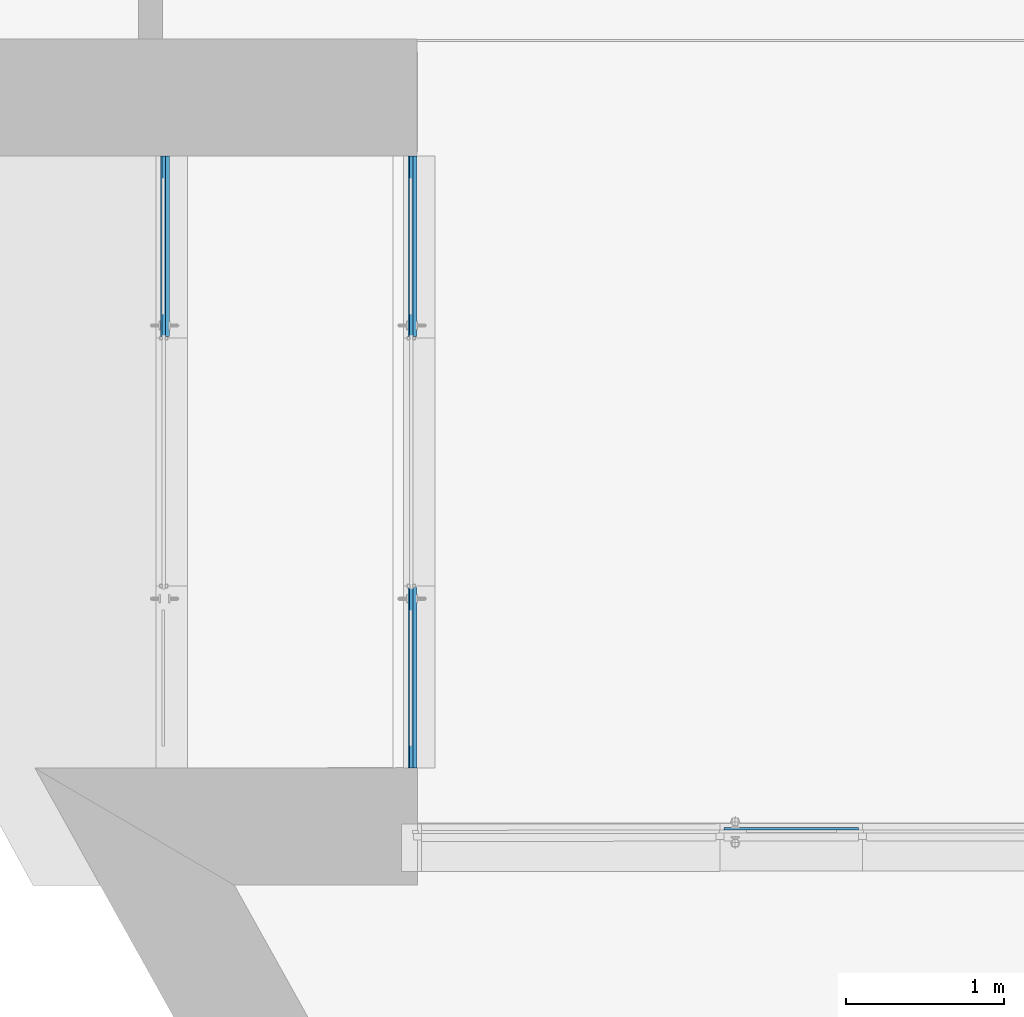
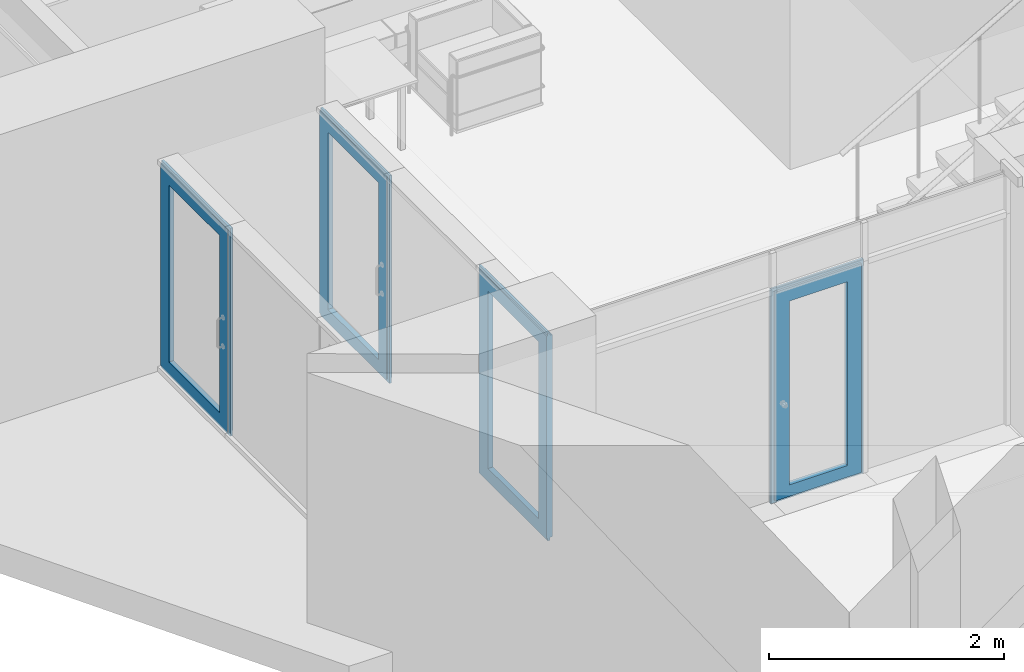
# One storey, part 62 of 127: 4 building element parts, 7 elements without a shape of their own.
"""IFC2X3 building model written with IfcOpenShell, lengths in millimetres."""

from ifc_helpers import new_model, entity, si_unit, converted_unit, derived_unit, money_unit, direction, frame, origin_with_axes, place, context, subcontext, project, spatial, faceted_brep, material, type_object, element, aggregate, save


model = new_model("IFC2X3")

# Units and contexts
model_context = context("Model", 3, precision=1e-05, world=origin_with_axes(), true_north=direction((0.0, 1.0)))
body_context = subcontext(model_context, "Body", "Model", "MODEL_VIEW")
ifc_project = project(units=[si_unit("LENGTHUNIT", "METRE", prefix="MILLI"), si_unit("AREAUNIT", "SQUARE_METRE"), si_unit("VOLUMEUNIT", "CUBIC_METRE"), converted_unit("PLANEANGLEUNIT", "DEGREE", entity("IfcPlaneAngleMeasure", 0.0174532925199), si_unit("PLANEANGLEUNIT", "RADIAN"), dimensions=[0, 0, 0, 0, 0, 0, 0]), si_unit("SOLIDANGLEUNIT", "STERADIAN"), money_unit("EUR"), converted_unit("TIMEUNIT", "Year", entity("IfcTimeMeasure", 31556926.0), si_unit("TIMEUNIT", "SECOND"), dimensions=[0, 0, 1, 0, 0, 0, 0]), si_unit("MASSUNIT", "GRAM", prefix="KILO"), si_unit("THERMODYNAMICTEMPERATUREUNIT", "DEGREE_CELSIUS"), si_unit("LUMINOUSINTENSITYUNIT", "LUMEN"), si_unit("ENERGYUNIT", "JOULE", prefix="MEGA"), derived_unit("THERMALCONDUCTANCEUNIT", [(si_unit("POWERUNIT", "WATT"), 1), (si_unit("LENGTHUNIT", "METRE"), -1), (si_unit("THERMODYNAMICTEMPERATUREUNIT", "KELVIN"), -1)]), derived_unit("SPECIFICHEATCAPACITYUNIT", [(si_unit("ENERGYUNIT", "JOULE"), 1), (si_unit("MASSUNIT", "GRAM", prefix="KILO"), -1), (si_unit("THERMODYNAMICTEMPERATUREUNIT", "KELVIN"), -1)]), derived_unit("MASSDENSITYUNIT", [(si_unit("MASSUNIT", "GRAM", prefix="KILO"), 1), (si_unit("VOLUMEUNIT", "CUBIC_METRE"), -1)])], contexts=[model_context])

# Site, building, storey
site_placement = place(None, origin_with_axes())
site = spatial("IfcSite", under=ifc_project, at=site_placement, Name="Site", CompositionType="ELEMENT")
building_placement = place(site_placement, origin_with_axes())
building = spatial("IfcBuilding", under=site, at=building_placement, Name="Building", CompositionType="ELEMENT")
storey_placement = place(building_placement, origin_with_axes())
storey = spatial("IfcBuildingStorey", under=building, at=storey_placement, Name="1 KORRUS", CompositionType="ELEMENT", Elevation=0.0)

# Curtain wall, door, building element part
curtain_wall_type_1 = type_object("IfcCurtainWallType", Name="VU-2", PredefinedType="NOTDEFINED")
curtain_wall_1_placement = place(storey_placement, frame((18897.7258144, 42128.0459009, 25.0), z_axis=(0.0, 0.0, 1.0), x_axis=(1.0, 0.0, 0.0)))
curtain_wall_1 = element("IfcCurtainWall", 1, at=curtain_wall_1_placement, inside=storey, type_object=curtain_wall_type_1, Name="Välisuks")
door_style_1 = type_object("IfcDoorStyle", Name="1150 x 5 x 20", ConstructionType="NOTDEFINED", OperationType="NOTDEFINED", ParameterTakesPrecedence=False, Sizeable=False)
door_1_placement = place(curtain_wall_1_placement, frame((0.0, 0.0, 1075.0), z_axis=(0.0, 0.0, 1.0), x_axis=(0.0, 1.0, 0.0)))
door_1 = element("IfcDoor", 2, at=door_1_placement, type_object=door_style_1, Name="Välisuks * CW Door 22")
aggregate(curtain_wall_1, [door_1])
ifc_material = material(Name="Alumiinium (1)")
building_element_part_1_placement = place(door_1_placement, origin_with_axes())
building_element_part_1 = element("IfcBuildingElementPart", 3, at=building_element_part_1_placement, material=ifc_material, Name="Alumiinium (1)", context=body_context, shape_type="Brep", body=[
    faceted_brep([(-565.000009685, -35.0, -1049.99999627), (-565.000009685, -35.0, 1049.99999627), (-565.000009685, -30.0, 1049.99999627), (-565.000009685, -30.0, -1049.99999627), (-520.000009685, -35.0, -1049.99999627), (-520.000009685, -35.0, 1004.99999627), (-520.000009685, -30.0, 1004.99999627), (-520.000009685, -30.0, -1049.99999627)], [[[0, 1, 2, 3]], [[0, 4, 5, 1]], [[1, 5, 6, 2]], [[3, 2, 6, 7]], [[4, 0, 3, 7]], [[5, 4, 7, 6]]]),
    faceted_brep([(575.000000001, -35.0, 1049.99999627), (530.000000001, -35.0, 1004.99999627), (530.000000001, -30.0, 1004.99999627), (575.000000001, -30.0, 1049.99999627), (-565.000009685, -35.0, 1049.99999627), (-520.000009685, -35.0, 1004.99999627), (-520.000009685, -30.0, 1004.99999627), (-565.000009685, -30.0, 1049.99999627)], [[[0, 1, 2, 3]], [[0, 4, 5, 1]], [[1, 5, 6, 2]], [[3, 2, 6, 7]], [[4, 0, 3, 7]], [[5, 4, 7, 6]]]),
    faceted_brep([(575.000000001, -35.0, -1049.99999627), (530.000000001, -35.0, -1049.99999627), (530.000000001, -30.0, -1049.99999627), (575.000000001, -30.0, -1049.99999627), (575.000000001, -35.0, 1049.99999627), (530.000000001, -35.0, 1004.99999627), (530.000000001, -30.0, 1004.99999627), (575.000000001, -30.0, 1049.99999627)], [[[0, 1, 2, 3]], [[0, 4, 5, 1]], [[1, 5, 6, 2]], [[3, 2, 6, 7]], [[4, 0, 3, 7]], [[5, 4, 7, 6]]]),
    faceted_brep([(-565.000009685, -30.0, -1049.99999627), (-565.000009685, -30.0, 1049.99999627), (-565.000009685, 20.0, 1049.99999627), (-565.000009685, 20.0, -1049.99999627), (-545.000009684, -30.0, -1049.99999627), (-545.000009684, -30.0, 1029.99999627), (-545.000009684, 20.0, 1029.99999627), (-545.000009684, 20.0, -1049.99999627)], [[[0, 1, 2, 3]], [[0, 4, 5, 1]], [[1, 5, 6, 2]], [[3, 2, 6, 7]], [[4, 0, 3, 7]], [[5, 4, 7, 6]]]),
    faceted_brep([(575.000000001, -30.0, 1049.99999627), (555.0, -30.0, 1029.99999627), (555.0, 20.0, 1029.99999627), (575.000000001, 20.0, 1049.99999627), (-565.000009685, -30.0, 1049.99999627), (-545.000009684, -30.0, 1029.99999627), (-545.000009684, 20.0, 1029.99999627), (-565.000009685, 20.0, 1049.99999627)], [[[0, 1, 2, 3]], [[0, 4, 5, 1]], [[1, 5, 6, 2]], [[3, 2, 6, 7]], [[4, 0, 3, 7]], [[5, 4, 7, 6]]]),
    faceted_brep([(575.000000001, -30.0, -1049.99999627), (555.0, -30.0, -1049.99999627), (555.0, 20.0, -1049.99999627), (575.000000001, 20.0, -1049.99999627), (575.000000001, -30.0, 1049.99999627), (555.0, -30.0, 1029.99999627), (555.0, 20.0, 1029.99999627), (575.000000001, 20.0, 1049.99999627)], [[[0, 1, 2, 3]], [[0, 4, 5, 1]], [[1, 5, 6, 2]], [[3, 2, 6, 7]], [[4, 0, 3, 7]], [[5, 4, 7, 6]]]),
    faceted_brep([(575.000000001, -9.99999999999, -1080.0), (-594.999999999, -9.99999999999, -1080.0), (-594.999999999, 9.99999999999, -1080.0), (575.000000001, 9.99999999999, -1080.0), (575.000000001, -9.99999999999, -1049.99999627), (-565.000009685, -9.99999999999, -1049.99999627), (-565.000009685, 9.99999999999, -1049.99999627), (575.000000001, 9.99999999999, -1049.99999627)], [[[0, 1, 2, 3]], [[0, 4, 5, 1]], [[1, 5, 6, 2]], [[3, 2, 6, 7]], [[4, 0, 3, 7]], [[5, 4, 7, 6]]]),
    faceted_brep([(-594.999999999, -9.99999999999, -1080.0), (-594.999999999, -9.99999999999, 1080.0), (-594.999999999, 9.99999999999, 1080.0), (-594.999999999, 9.99999999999, -1080.0), (-565.000009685, -9.99999999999, -1049.99999627), (-565.000009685, -9.99999999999, 1049.99999627), (-565.000009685, 9.99999999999, 1049.99999627), (-565.000009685, 9.99999999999, -1049.99999627)], [[[0, 1, 2, 3]], [[0, 4, 5, 1]], [[1, 5, 6, 2]], [[3, 2, 6, 7]], [[4, 0, 3, 7]], [[5, 4, 7, 6]]]),
    faceted_brep([(-594.999999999, -9.99999999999, 1080.0), (575.000000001, -9.99999999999, 1080.0), (575.000000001, 9.99999999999, 1080.0), (-594.999999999, 9.99999999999, 1080.0), (-565.000009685, -9.99999999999, 1049.99999627), (575.000000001, -9.99999999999, 1049.99999627), (575.000000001, 9.99999999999, 1049.99999627), (-565.000009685, 9.99999999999, 1049.99999627)], [[[0, 1, 2, 3]], [[0, 4, 5, 1]], [[1, 5, 6, 2]], [[3, 2, 6, 7]], [[4, 0, 3, 7]], [[5, 4, 7, 6]]]),
    faceted_brep([(435.0, -30.0, -929.999996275), (435.0, -30.0, 909.999996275), (435.0, 20.0, 909.999996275), (435.0, 20.0, -929.999996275), (555.0, -30.0, -1049.99999627), (555.0, -30.0, 1029.99999627), (555.0, 20.0, 1029.99999627), (555.0, 20.0, -1049.99999627)], [[[0, 1, 2, 3]], [[0, 4, 5, 1]], [[1, 5, 6, 2]], [[3, 2, 6, 7]], [[4, 0, 3, 7]], [[5, 4, 7, 6]]]),
    faceted_brep([(-545.000009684, -30.0, -1049.99999627), (-545.000009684, -30.0, 1029.99999627), (-545.000009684, 20.0, 1029.99999627), (-545.000009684, 20.0, -1049.99999627), (-425.000009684, -30.0, -929.999996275), (-425.000009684, -30.0, 909.999996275), (-425.000009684, 20.0, 909.999996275), (-425.000009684, 20.0, -929.999996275)], [[[0, 1, 2, 3]], [[0, 4, 5, 1]], [[1, 5, 6, 2]], [[3, 2, 6, 7]], [[4, 0, 3, 7]], [[5, 4, 7, 6]]]),
    faceted_brep([(-545.000009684, -30.0, -1049.99999627), (-425.000009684, -30.0, -929.999996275), (-425.000009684, 20.0, -929.999996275), (-545.000009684, 20.0, -1049.99999627), (555.0, -30.0, -1049.99999627), (435.0, -30.0, -929.999996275), (435.0, 20.0, -929.999996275), (555.0, 20.0, -1049.99999627)], [[[0, 1, 2, 3]], [[0, 4, 5, 1]], [[1, 5, 6, 2]], [[3, 2, 6, 7]], [[4, 0, 3, 7]], [[5, 4, 7, 6]]]),
    faceted_brep([(555.0, -30.0, 1029.99999627), (435.0, -30.0, 909.999996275), (435.0, 20.0, 909.999996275), (555.0, 20.0, 1029.99999627), (-545.000009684, -30.0, 1029.99999627), (-425.000009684, -30.0, 909.999996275), (-425.000009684, 20.0, 909.999996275), (-545.000009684, 20.0, 1029.99999627)], [[[0, 1, 2, 3]], [[0, 4, 5, 1]], [[1, 5, 6, 2]], [[3, 2, 6, 7]], [[4, 0, 3, 7]], [[5, 4, 7, 6]]]),
])
aggregate(door_1, [building_element_part_1])

curtain_wall_type_2 = type_object("IfcCurtainWallType", Name="SKS-2", PredefinedType="NOTDEFINED")
curtain_wall_2_placement = place(storey_placement, frame((24016.5741865, 38437.6405543, -0.000166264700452), z_axis=(0.0, 0.0, 1.0), x_axis=(1.0, 0.0, 0.0)))
curtain_wall_2 = element("IfcCurtainWall", 4, at=curtain_wall_2_placement, inside=storey, type_object=curtain_wall_type_2, Name="Klaassein")
door_style_2 = type_object("IfcDoorStyle", Name="Distinct Panel 5 x 5 x 20", ConstructionType="NOTDEFINED", OperationType="NOTDEFINED", ParameterTakesPrecedence=False, Sizeable=False)
door_2_placement = place(curtain_wall_2_placement, frame((-1154.99963122, -0.922976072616, 1100.0), z_axis=(0.0, 0.0, 1.0), x_axis=(0.999999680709, 0.000799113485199, 0.0)))
door_2 = element("IfcDoor", 5, at=door_2_placement, type_object=door_style_2, Name="Siseklaasseina uks * CW Door 22")
aggregate(curtain_wall_2, [door_2])
building_element_part_2_placement = place(door_2_placement, origin_with_axes())
building_element_part_2 = element("IfcBuildingElementPart", 6, at=building_element_part_2_placement, material=ifc_material, Name="Alumiinium (1)", context=body_context, shape_type="Brep", body=[
    faceted_brep([(-425.0, 20.0000000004, -1100.0), (-425.0, 20.0000000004, 1070.0), (-425.0, 25.0000000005, 1070.0), (-425.0, 25.0000000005, -1100.0), (-380.0, 20.0000000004, -1100.0), (-380.0, 20.0000000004, 1025.0), (-380.0, 25.0000000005, 1025.0), (-380.0, 25.0000000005, -1100.0)], [[[0, 1, 2, 3]], [[0, 4, 5, 1]], [[1, 5, 6, 2]], [[3, 2, 6, 7]], [[4, 0, 3, 7]], [[5, 4, 7, 6]]]),
    faceted_brep([(425.0, 20.0000000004, 1070.0), (380.0, 20.0000000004, 1025.0), (380.0, 25.0000000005, 1025.0), (425.0, 25.0000000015, 1070.0), (-425.0, 20.0000000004, 1070.0), (-380.0, 20.0000000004, 1025.0), (-380.0, 25.0000000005, 1025.0), (-425.0, 25.0000000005, 1070.0)], [[[0, 1, 2, 3]], [[0, 4, 5, 1]], [[1, 5, 6, 2]], [[3, 2, 6, 7]], [[4, 0, 3, 7]], [[5, 4, 7, 6]]]),
    faceted_brep([(425.0, 20.0000000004, -1100.0), (380.0, 20.0000000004, -1100.0), (380.0, 25.0000000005, -1100.0), (425.0, 25.0000000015, -1100.0), (425.0, 20.0000000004, 1070.0), (380.0, 20.0000000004, 1025.0), (380.0, 25.0000000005, 1025.0), (425.0, 25.0000000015, 1070.0)], [[[0, 1, 2, 3]], [[0, 4, 5, 1]], [[1, 5, 6, 2]], [[3, 2, 6, 7]], [[4, 0, 3, 7]], [[5, 4, 7, 6]]]),
    faceted_brep([(-425.0, -29.9999999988, -1100.0), (-425.0, -29.9999999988, 1070.0), (-425.0, 20.0000000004, 1070.0), (-425.0, 20.0000000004, -1100.0), (-405.0, -29.9999999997, -1100.0), (-405.0, -29.9999999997, 1050.0), (-405.0, 20.0000000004, 1050.0), (-405.0, 20.0000000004, -1100.0)], [[[0, 1, 2, 3]], [[0, 4, 5, 1]], [[1, 5, 6, 2]], [[3, 2, 6, 7]], [[4, 0, 3, 7]], [[5, 4, 7, 6]]]),
    faceted_brep([(425.0, -29.9999999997, 1070.0), (405.0, -29.9999999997, 1050.0), (405.0, 20.0000000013, 1050.0), (425.0, 20.0000000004, 1070.0), (-425.0, -29.9999999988, 1070.0), (-405.0, -29.9999999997, 1050.0), (-405.0, 20.0000000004, 1050.0), (-425.0, 20.0000000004, 1070.0)], [[[0, 1, 2, 3]], [[0, 4, 5, 1]], [[1, 5, 6, 2]], [[3, 2, 6, 7]], [[4, 0, 3, 7]], [[5, 4, 7, 6]]]),
    faceted_brep([(425.0, -29.9999999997, -1100.0), (405.0, -29.9999999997, -1100.0), (405.0, 20.0000000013, -1100.0), (425.0, 20.0000000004, -1100.0), (425.0, -29.9999999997, 1070.0), (405.0, -29.9999999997, 1050.0), (405.0, 20.0000000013, 1050.0), (425.0, 20.0000000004, 1070.0)], [[[0, 1, 2, 3]], [[0, 4, 5, 1]], [[1, 5, 6, 2]], [[3, 2, 6, 7]], [[4, 0, 3, 7]], [[5, 4, 7, 6]]]),
    faceted_brep([(455.0, -9.99999999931, -1130.0), (-454.999987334, -9.99999999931, -1130.0), (-454.999987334, 9.99999999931, -1130.0), (455.0, 10.0000000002, -1130.0), (425.0, -9.99999999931, -1100.0), (-425.0, -10.0000000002, -1100.0), (-425.0, 10.0000000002, -1100.0), (425.0, 10.0000000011, -1100.0)], [[[0, 1, 2, 3]], [[0, 4, 5, 1]], [[1, 5, 6, 2]], [[3, 2, 6, 7]], [[4, 0, 3, 7]], [[5, 4, 7, 6]]]),
    faceted_brep([(-454.999987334, -9.99999999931, -1130.0), (-454.999987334, -9.99999999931, 1100.0), (-454.999987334, 9.99999999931, 1100.0), (-454.999987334, 9.99999999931, -1130.0), (-425.0, -10.0000000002, -1100.0), (-425.0, -10.0000000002, 1070.0), (-425.0, 10.0000000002, 1070.0), (-425.0, 10.0000000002, -1100.0)], [[[0, 1, 2, 3]], [[0, 4, 5, 1]], [[1, 5, 6, 2]], [[3, 2, 6, 7]], [[4, 0, 3, 7]], [[5, 4, 7, 6]]]),
    faceted_brep([(-454.999987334, -9.99999999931, 1100.0), (455.0, -9.99999999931, 1100.0), (455.0, 10.0000000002, 1100.0), (-454.999987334, 9.99999999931, 1100.0), (-425.0, -10.0000000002, 1070.0), (425.0, -9.99999999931, 1070.0), (425.0, 10.0000000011, 1070.0), (-425.0, 10.0000000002, 1070.0)], [[[0, 1, 2, 3]], [[0, 4, 5, 1]], [[1, 5, 6, 2]], [[3, 2, 6, 7]], [[4, 0, 3, 7]], [[5, 4, 7, 6]]]),
    faceted_brep([(455.0, -9.99999999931, 1100.0), (455.0, -9.99999999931, -1130.0), (455.0, 10.0000000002, -1130.0), (455.0, 10.0000000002, 1100.0), (425.0, -9.99999999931, 1070.0), (425.0, -9.99999999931, -1100.0), (425.0, 10.0000000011, -1100.0), (425.0, 10.0000000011, 1070.0)], [[[0, 1, 2, 3]], [[0, 4, 5, 1]], [[1, 5, 6, 2]], [[3, 2, 6, 7]], [[4, 0, 3, 7]], [[5, 4, 7, 6]]]),
    faceted_brep([(285.0, 19.9999999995, -980.0), (285.0, -29.9999999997, -980.0), (285.0, -29.9999999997, 930.0), (285.0, 19.9999999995, 930.0), (405.0, 20.0000000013, -1100.0), (405.0, -29.9999999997, -1100.0), (405.0, -29.9999999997, 1050.0), (405.0, 20.0000000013, 1050.0)], [[[0, 1, 2, 3]], [[4, 5, 1, 0]], [[1, 5, 6, 2]], [[3, 2, 6, 7]], [[0, 3, 7, 4]], [[7, 6, 5, 4]]]),
    faceted_brep([(-405.0, 20.0000000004, -1100.0), (-405.0, -29.9999999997, -1100.0), (-405.0, -29.9999999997, 1050.0), (-405.0, 20.0000000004, 1050.0), (-285.0, 20.0000000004, -980.0), (-285.0, -29.9999999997, -980.0), (-285.0, -29.9999999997, 930.0), (-285.0, 20.0000000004, 930.0)], [[[0, 1, 2, 3]], [[4, 5, 1, 0]], [[1, 5, 6, 2]], [[3, 2, 6, 7]], [[0, 3, 7, 4]], [[7, 6, 5, 4]]]),
    faceted_brep([(-405.0, 20.0000000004, -1100.0), (-405.0, -29.9999999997, -1100.0), (-285.0, -29.9999999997, -980.0), (-285.0, 20.0000000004, -980.0), (405.0, 20.0000000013, -1100.0), (405.0, -29.9999999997, -1100.0), (285.0, -29.9999999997, -980.0), (285.0, 19.9999999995, -980.0)], [[[0, 1, 2, 3]], [[4, 5, 1, 0]], [[1, 5, 6, 2]], [[3, 2, 6, 7]], [[0, 3, 7, 4]], [[7, 6, 5, 4]]]),
    faceted_brep([(405.0, 20.0000000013, 1050.0), (405.0, -29.9999999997, 1050.0), (285.0, -29.9999999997, 930.0), (285.0, 19.9999999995, 930.0), (-405.0, 20.0000000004, 1050.0), (-405.0, -29.9999999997, 1050.0), (-285.0, -29.9999999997, 930.0), (-285.0, 20.0000000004, 930.0)], [[[0, 1, 2, 3]], [[4, 5, 1, 0]], [[1, 5, 6, 2]], [[3, 2, 6, 7]], [[0, 3, 7, 4]], [[7, 6, 5, 4]]]),
])
aggregate(door_2, [building_element_part_2])

# Curtain wall, doors, building element parts
curtain_wall_type_3 = type_object("IfcCurtainWallType", Name="SU-2", PredefinedType="NOTDEFINED")
curtain_wall_3_placement = place(storey_placement, frame((20461.0776503, 42128.0462024, 25.0), z_axis=(0.0, 0.0, 1.0), x_axis=(1.0, 0.0, 0.0)))
curtain_wall_3 = element("IfcCurtainWall", 7, at=curtain_wall_3_placement, inside=storey, type_object=curtain_wall_type_3, Name="Siseuks")
door_style_3 = type_object("IfcDoorStyle", Name="Distinct Panel 1150 x 5 x 20", ConstructionType="NOTDEFINED", OperationType="NOTDEFINED", ParameterTakesPrecedence=False, Sizeable=False)
door_3_placement = place(curtain_wall_3_placement, frame((0.0, 0.0, 1075.0), z_axis=(0.0, 0.0, 1.0), x_axis=(3.00618629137e-05, 0.999999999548, 0.0)))
door_3 = element("IfcDoor", 8, at=door_3_placement, type_object=door_style_3, Name="Välisuks * CW Door 22")
building_element_part_3_placement = place(door_3_placement, origin_with_axes())
building_element_part_3 = element("IfcBuildingElementPart", 9, at=building_element_part_3_placement, material=ifc_material, Name="Alumiinium (1)", context=body_context, shape_type="Brep", body=[
    faceted_brep([(-565.000009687, -35.0000000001, -1049.99999627), (-565.000009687, -35.0000000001, 1049.99999627), (-565.000009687, -30.0000000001, 1049.99999627), (-565.000009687, -30.0000000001, -1049.99999627), (-520.000009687, -35.0, -1049.99999627), (-520.000009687, -35.0, 1004.99999627), (-520.000009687, -30.0000000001, 1004.99999627), (-520.000009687, -30.0000000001, -1049.99999627)], [[[0, 1, 2, 3]], [[0, 4, 5, 1]], [[1, 5, 6, 2]], [[3, 2, 6, 7]], [[4, 0, 3, 7]], [[5, 4, 7, 6]]]),
    faceted_brep([(574.999999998, -35.0000000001, 1049.99999627), (530.0, -35.0000000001, 1004.99999627), (529.999999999, -30.0000000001, 1004.99999627), (574.999999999, -30.0000000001, 1049.99999627), (-565.000009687, -35.0000000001, 1049.99999627), (-520.000009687, -35.0, 1004.99999627), (-520.000009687, -30.0000000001, 1004.99999627), (-565.000009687, -30.0000000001, 1049.99999627)], [[[0, 1, 2, 3]], [[0, 4, 5, 1]], [[1, 5, 6, 2]], [[3, 2, 6, 7]], [[4, 0, 3, 7]], [[5, 4, 7, 6]]]),
    faceted_brep([(574.999999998, -35.0000000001, -1049.99999627), (530.0, -35.0000000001, -1049.99999627), (529.999999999, -30.0000000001, -1049.99999627), (574.999999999, -30.0000000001, -1049.99999627), (574.999999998, -35.0000000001, 1049.99999627), (530.0, -35.0000000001, 1004.99999627), (529.999999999, -30.0000000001, 1004.99999627), (574.999999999, -30.0000000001, 1049.99999627)], [[[0, 1, 2, 3]], [[0, 4, 5, 1]], [[1, 5, 6, 2]], [[3, 2, 6, 7]], [[4, 0, 3, 7]], [[5, 4, 7, 6]]]),
    faceted_brep([(-565.000009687, -30.0000000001, -1049.99999627), (-565.000009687, -30.0000000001, 1049.99999627), (-565.000009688, 20.0, 1049.99999627), (-565.000009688, 20.0, -1049.99999627), (-545.000009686, -30.0000000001, -1049.99999627), (-545.000009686, -30.0000000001, 1029.99999627), (-545.000009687, 19.9999999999, 1029.99999627), (-545.000009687, 19.9999999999, -1049.99999627)], [[[0, 1, 2, 3]], [[0, 4, 5, 1]], [[1, 5, 6, 2]], [[3, 2, 6, 7]], [[4, 0, 3, 7]], [[5, 4, 7, 6]]]),
    faceted_brep([(574.999999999, -30.0000000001, 1049.99999627), (554.999999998, -30.0000000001, 1029.99999627), (554.999999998, 20.0, 1029.99999627), (574.999999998, 20.0, 1049.99999627), (-565.000009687, -30.0000000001, 1049.99999627), (-545.000009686, -30.0000000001, 1029.99999627), (-545.000009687, 19.9999999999, 1029.99999627), (-565.000009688, 20.0, 1049.99999627)], [[[0, 1, 2, 3]], [[0, 4, 5, 1]], [[1, 5, 6, 2]], [[3, 2, 6, 7]], [[4, 0, 3, 7]], [[5, 4, 7, 6]]]),
    faceted_brep([(574.999999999, -30.0000000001, -1049.99999627), (554.999999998, -30.0000000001, -1049.99999627), (554.999999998, 20.0, -1049.99999627), (574.999999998, 20.0, -1049.99999627), (574.999999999, -30.0000000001, 1049.99999627), (554.999999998, -30.0000000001, 1029.99999627), (554.999999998, 20.0, 1029.99999627), (574.999999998, 20.0, 1049.99999627)], [[[0, 1, 2, 3]], [[0, 4, 5, 1]], [[1, 5, 6, 2]], [[3, 2, 6, 7]], [[4, 0, 3, 7]], [[5, 4, 7, 6]]]),
    faceted_brep([(574.999999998, -10.0000000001, -1080.0), (-595.000000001, -10.0000000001, -1080.0), (-595.000000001, 9.99999999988, -1080.0), (574.999999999, 9.99999999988, -1080.0), (574.999999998, -10.0000000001, -1049.99999627), (-565.000009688, -10.0000000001, -1049.99999627), (-565.000009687, 9.99999999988, -1049.99999627), (574.999999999, 9.99999999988, -1049.99999627)], [[[0, 1, 2, 3]], [[0, 4, 5, 1]], [[1, 5, 6, 2]], [[3, 2, 6, 7]], [[4, 0, 3, 7]], [[5, 4, 7, 6]]]),
    faceted_brep([(-595.000000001, -10.0000000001, -1080.0), (-595.000000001, -10.0000000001, 1080.0), (-595.000000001, 9.99999999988, 1080.0), (-595.000000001, 9.99999999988, -1080.0), (-565.000009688, -10.0000000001, -1049.99999627), (-565.000009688, -10.0000000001, 1049.99999627), (-565.000009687, 9.99999999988, 1049.99999627), (-565.000009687, 9.99999999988, -1049.99999627)], [[[0, 1, 2, 3]], [[0, 4, 5, 1]], [[1, 5, 6, 2]], [[3, 2, 6, 7]], [[4, 0, 3, 7]], [[5, 4, 7, 6]]]),
    faceted_brep([(-595.000000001, -10.0000000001, 1080.0), (574.999999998, -10.0000000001, 1080.0), (574.999999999, 9.99999999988, 1080.0), (-595.000000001, 9.99999999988, 1080.0), (-565.000009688, -10.0000000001, 1049.99999627), (574.999999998, -10.0000000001, 1049.99999627), (574.999999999, 9.99999999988, 1049.99999627), (-565.000009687, 9.99999999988, 1049.99999627)], [[[0, 1, 2, 3]], [[0, 4, 5, 1]], [[1, 5, 6, 2]], [[3, 2, 6, 7]], [[4, 0, 3, 7]], [[5, 4, 7, 6]]]),
    faceted_brep([(434.999999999, -30.0000000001, -929.999996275), (434.999999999, -30.0000000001, 909.999996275), (434.999999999, 20.0, 909.999996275), (434.999999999, 20.0, -929.999996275), (554.999999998, -30.0000000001, -1049.99999627), (554.999999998, -30.0000000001, 1029.99999627), (554.999999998, 20.0, 1029.99999627), (554.999999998, 20.0, -1049.99999627)], [[[0, 1, 2, 3]], [[0, 4, 5, 1]], [[1, 5, 6, 2]], [[3, 2, 6, 7]], [[4, 0, 3, 7]], [[5, 4, 7, 6]]]),
    faceted_brep([(-545.000009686, -30.0000000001, -1049.99999627), (-545.000009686, -30.0000000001, 1029.99999627), (-545.000009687, 19.9999999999, 1029.99999627), (-545.000009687, 19.9999999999, -1049.99999627), (-425.000009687, -30.0000000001, -929.999996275), (-425.000009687, -30.0000000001, 909.999996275), (-425.000009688, 19.9999999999, 909.999996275), (-425.000009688, 19.9999999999, -929.999996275)], [[[0, 1, 2, 3]], [[0, 4, 5, 1]], [[1, 5, 6, 2]], [[3, 2, 6, 7]], [[4, 0, 3, 7]], [[5, 4, 7, 6]]]),
    faceted_brep([(-545.000009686, -30.0000000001, -1049.99999627), (-425.000009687, -30.0000000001, -929.999996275), (-425.000009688, 19.9999999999, -929.999996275), (-545.000009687, 19.9999999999, -1049.99999627), (554.999999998, -30.0000000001, -1049.99999627), (434.999999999, -30.0000000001, -929.999996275), (434.999999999, 20.0, -929.999996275), (554.999999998, 20.0, -1049.99999627)], [[[0, 1, 2, 3]], [[0, 4, 5, 1]], [[1, 5, 6, 2]], [[3, 2, 6, 7]], [[4, 0, 3, 7]], [[5, 4, 7, 6]]]),
    faceted_brep([(554.999999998, -30.0000000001, 1029.99999627), (434.999999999, -30.0000000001, 909.999996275), (434.999999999, 20.0, 909.999996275), (554.999999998, 20.0, 1029.99999627), (-545.000009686, -30.0000000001, 1029.99999627), (-425.000009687, -30.0000000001, 909.999996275), (-425.000009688, 19.9999999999, 909.999996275), (-545.000009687, 19.9999999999, 1029.99999627)], [[[0, 1, 2, 3]], [[0, 4, 5, 1]], [[1, 5, 6, 2]], [[3, 2, 6, 7]], [[4, 0, 3, 7]], [[5, 4, 7, 6]]]),
])
aggregate(door_3, [building_element_part_3])
door_4_placement = place(curtain_wall_3_placement, frame((-0.0816307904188, -2715.42688036, 1075.0), z_axis=(0.0, 0.0, 1.0), x_axis=(3.00618625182e-05, 0.999999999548, 0.0)))
door_4 = element("IfcDoor", 10, at=door_4_placement, type_object=door_style_1, Name="Siseuks * CW Door 22")
aggregate(curtain_wall_3, [door_3, door_4])
building_element_part_4_placement = place(door_4_placement, origin_with_axes())
building_element_part_4 = element("IfcBuildingElementPart", 11, at=building_element_part_4_placement, material=ifc_material, Name="Alumiinium (1)", context=body_context, shape_type="Brep", body=[
    faceted_brep([(-575.000011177, -35.0, -1049.99999627), (-575.000011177, -35.0, 1049.99999627), (-575.000011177, -30.0, 1049.99999627), (-575.000011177, -30.0, -1049.99999627), (-530.000011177, -35.0, -1049.99999627), (-530.000011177, -35.0, 1004.99999627), (-530.000011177, -30.0, 1004.99999627), (-530.000011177, -30.0, -1049.99999627)], [[[0, 1, 2, 3]], [[0, 4, 5, 1]], [[1, 5, 6, 2]], [[3, 2, 6, 7]], [[4, 0, 3, 7]], [[5, 4, 7, 6]]]),
    faceted_brep([(564.999998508, -35.0, 1049.99999627), (519.99999851, -35.0, 1004.99999627), (519.999998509, -30.0, 1004.99999627), (564.999998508, -29.9999999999, 1049.99999627), (-575.000011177, -35.0, 1049.99999627), (-530.000011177, -35.0, 1004.99999627), (-530.000011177, -30.0, 1004.99999627), (-575.000011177, -30.0, 1049.99999627)], [[[0, 1, 2, 3]], [[0, 4, 5, 1]], [[1, 5, 6, 2]], [[3, 2, 6, 7]], [[4, 0, 3, 7]], [[5, 4, 7, 6]]]),
    faceted_brep([(564.999998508, -35.0, -1049.99999627), (519.99999851, -35.0, -1049.99999627), (519.999998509, -30.0, -1049.99999627), (564.999998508, -29.9999999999, -1049.99999627), (564.999998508, -35.0, 1049.99999627), (519.99999851, -35.0, 1004.99999627), (519.999998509, -30.0, 1004.99999627), (564.999998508, -29.9999999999, 1049.99999627)], [[[0, 1, 2, 3]], [[0, 4, 5, 1]], [[1, 5, 6, 2]], [[3, 2, 6, 7]], [[4, 0, 3, 7]], [[5, 4, 7, 6]]]),
    faceted_brep([(-575.000011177, -30.0, -1049.99999627), (-575.000011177, -30.0, 1049.99999627), (-575.000011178, 20.0000000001, 1049.99999627), (-575.000011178, 20.0000000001, -1049.99999627), (-555.000011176, -30.0, -1049.99999627), (-555.000011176, -30.0, 1029.99999627), (-555.000011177, 20.0000000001, 1029.99999627), (-555.000011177, 20.0000000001, -1049.99999627)], [[[0, 1, 2, 3]], [[0, 4, 5, 1]], [[1, 5, 6, 2]], [[3, 2, 6, 7]], [[4, 0, 3, 7]], [[5, 4, 7, 6]]]),
    faceted_brep([(564.999998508, -29.9999999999, 1049.99999627), (544.999998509, -29.9999999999, 1029.99999627), (544.999998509, 20.0000000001, 1029.99999627), (564.999998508, 20.0, 1049.99999627), (-575.000011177, -30.0, 1049.99999627), (-555.000011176, -30.0, 1029.99999627), (-555.000011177, 20.0000000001, 1029.99999627), (-575.000011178, 20.0000000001, 1049.99999627)], [[[0, 1, 2, 3]], [[0, 4, 5, 1]], [[1, 5, 6, 2]], [[3, 2, 6, 7]], [[4, 0, 3, 7]], [[5, 4, 7, 6]]]),
    faceted_brep([(564.999998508, -29.9999999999, -1049.99999627), (544.999998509, -29.9999999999, -1049.99999627), (544.999998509, 20.0000000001, -1049.99999627), (564.999998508, 20.0, -1049.99999627), (564.999998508, -29.9999999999, 1049.99999627), (544.999998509, -29.9999999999, 1029.99999627), (544.999998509, 20.0000000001, 1029.99999627), (564.999998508, 20.0, 1049.99999627)], [[[0, 1, 2, 3]], [[0, 4, 5, 1]], [[1, 5, 6, 2]], [[3, 2, 6, 7]], [[4, 0, 3, 7]], [[5, 4, 7, 6]]]),
    faceted_brep([(594.999999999, -9.99999999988, -1080.0), (-575.000032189, -9.99999999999, -1080.0), (-575.000032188, 9.99999999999, -1080.0), (595.0, 10.0000000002, -1080.0), (564.999998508, -9.99999999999, -1049.99999627), (-575.000011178, -9.99999999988, -1049.99999627), (-575.000011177, 9.99999999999, -1049.99999627), (564.999998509, 10.0000000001, -1049.99999627)], [[[0, 1, 2, 3]], [[0, 4, 5, 1]], [[1, 5, 6, 2]], [[3, 2, 6, 7]], [[4, 0, 3, 7]], [[5, 4, 7, 6]]]),
    faceted_brep([(-575.000032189, -9.99999999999, 1080.0), (594.999999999, -9.99999999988, 1080.0), (595.0, 10.0000000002, 1080.0), (-575.000032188, 9.99999999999, 1080.0), (-575.000011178, -9.99999999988, 1049.99999627), (564.999998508, -9.99999999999, 1049.99999627), (564.999998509, 10.0000000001, 1049.99999627), (-575.000011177, 9.99999999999, 1049.99999627)], [[[0, 1, 2, 3]], [[0, 4, 5, 1]], [[1, 5, 6, 2]], [[3, 2, 6, 7]], [[4, 0, 3, 7]], [[5, 4, 7, 6]]]),
    faceted_brep([(594.999999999, -9.99999999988, 1080.0), (594.999999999, -9.99999999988, -1080.0), (595.0, 10.0000000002, -1080.0), (595.0, 10.0000000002, 1080.0), (564.999998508, -9.99999999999, 1049.99999627), (564.999998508, -9.99999999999, -1049.99999627), (564.999998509, 10.0000000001, -1049.99999627), (564.999998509, 10.0000000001, 1049.99999627)], [[[0, 1, 2, 3]], [[0, 4, 5, 1]], [[1, 5, 6, 2]], [[3, 2, 6, 7]], [[4, 0, 3, 7]], [[5, 4, 7, 6]]]),
    faceted_brep([(424.999998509, -30.0, -929.999996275), (424.999998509, -30.0, 909.999996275), (424.999998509, 20.0000000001, 909.999996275), (424.999998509, 20.0000000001, -929.999996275), (544.999998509, -29.9999999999, -1049.99999627), (544.999998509, -29.9999999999, 1029.99999627), (544.999998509, 20.0000000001, 1029.99999627), (544.999998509, 20.0000000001, -1049.99999627)], [[[0, 1, 2, 3]], [[0, 4, 5, 1]], [[1, 5, 6, 2]], [[3, 2, 6, 7]], [[4, 0, 3, 7]], [[5, 4, 7, 6]]]),
    faceted_brep([(-555.000011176, -30.0, -1049.99999627), (-555.000011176, -30.0, 1029.99999627), (-555.000011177, 20.0000000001, 1029.99999627), (-555.000011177, 20.0000000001, -1049.99999627), (-435.000011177, -30.0000000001, -929.999996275), (-435.000011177, -30.0000000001, 909.999996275), (-435.000011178, 20.0000000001, 909.999996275), (-435.000011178, 20.0000000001, -929.999996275)], [[[0, 1, 2, 3]], [[0, 4, 5, 1]], [[1, 5, 6, 2]], [[3, 2, 6, 7]], [[4, 0, 3, 7]], [[5, 4, 7, 6]]]),
    faceted_brep([(-555.000011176, -30.0, -1049.99999627), (-435.000011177, -30.0000000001, -929.999996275), (-435.000011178, 20.0000000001, -929.999996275), (-555.000011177, 20.0000000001, -1049.99999627), (544.999998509, -29.9999999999, -1049.99999627), (424.999998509, -30.0, -929.999996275), (424.999998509, 20.0000000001, -929.999996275), (544.999998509, 20.0000000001, -1049.99999627)], [[[0, 1, 2, 3]], [[0, 4, 5, 1]], [[1, 5, 6, 2]], [[3, 2, 6, 7]], [[4, 0, 3, 7]], [[5, 4, 7, 6]]]),
    faceted_brep([(544.999998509, -29.9999999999, 1029.99999627), (424.999998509, -30.0, 909.999996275), (424.999998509, 20.0000000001, 909.999996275), (544.999998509, 20.0000000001, 1029.99999627), (-555.000011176, -30.0, 1029.99999627), (-435.000011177, -30.0000000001, 909.999996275), (-435.000011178, 20.0000000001, 909.999996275), (-555.000011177, 20.0000000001, 1029.99999627)], [[[0, 1, 2, 3]], [[0, 4, 5, 1]], [[1, 5, 6, 2]], [[3, 2, 6, 7]], [[4, 0, 3, 7]], [[5, 4, 7, 6]]]),
])
aggregate(door_4, [building_element_part_4])

save(model, "model.ifc")
